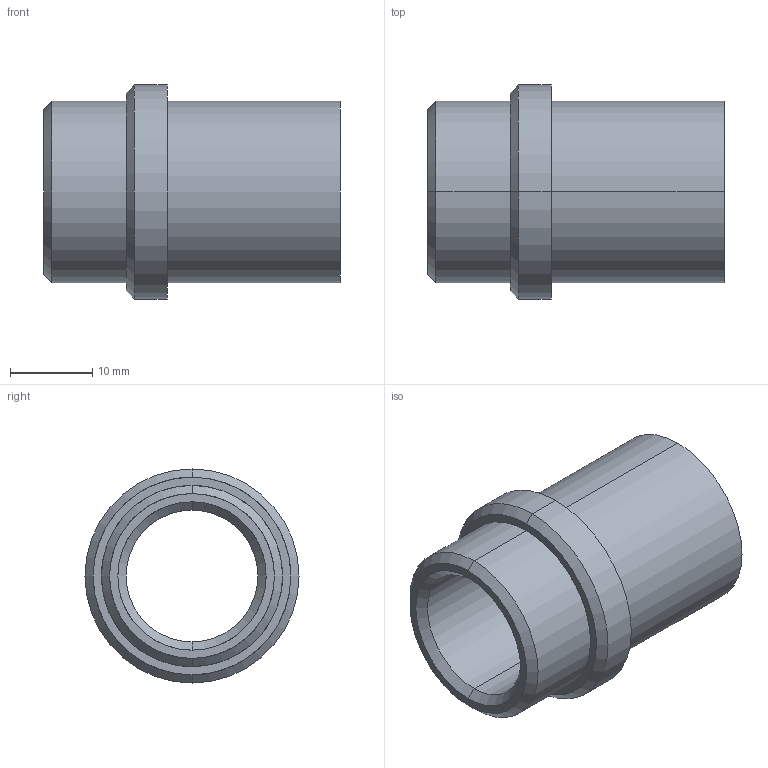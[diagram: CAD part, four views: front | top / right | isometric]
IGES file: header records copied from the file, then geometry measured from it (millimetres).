
Start section: START RECORD GO HERE.
Global section: file name: 358-16x36.igs; native system: DASSAULT SYSTEMES CATIA V5 R20 - www.3ds.com; preprocessor: CATIA Version 5 Release 20 ; author: Utente; organization: NB04-ASUS; date: 20210408.155618; units: millimetre
Bounding box: 36 x 26 x 26 mm (x, y, z)
Surface area: 4859.8 mm2 (no closed solid volume)
Topology: 0 solids, 0 shells, 20 faces, 128 edges, 128 vertices
Faces by surface type: revolution 16, plane 4
